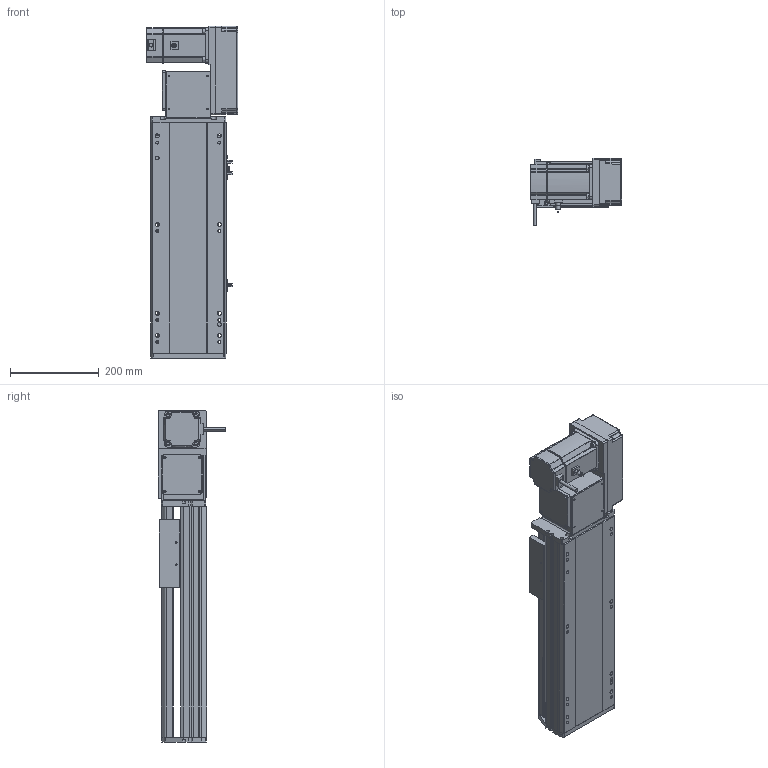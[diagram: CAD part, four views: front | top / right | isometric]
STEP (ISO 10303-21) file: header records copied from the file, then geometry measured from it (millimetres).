
FILE_DESCRIPTION (( 'STEP AP214' ), '1' );
FILE_NAME ('RTB17S-XX-250-R-M75-C4.STEP', '2025-12-12T01:29:22', ( '' ), ( '' ), 'SwSTEP 2.0', 'SolidWorks 2018', '' );
FILE_SCHEMA (( 'AUTOMOTIVE_DESIGN' ));
Length unit declared in the file: millimetre
Products named in the file (15): RTB22S-GY-017P^RTB17S-R-々湍釱蚾饜-750W_RTB17S-XX-XX-R-M75-C4; RTB17S-L-001-耜醱啣^RTB17S-XX-XX-R-M75-C4; RTB22S-GY-005P^RTB17S-R-々湍釱蚾饜-750W_RTB17S-XX-XX-R-M75-C4; RTB22S-GY-008-M75--萇儂啣^RTB17S-R-々湍釱蚾饜-750W_RTB17S-XX-XX-R-M75-C4; RTB17S-L-014-T20-P75--々湍釱^RTB17S-R-々湍釱蚾饜-750W_RTB17S-XX-XX-R-M75-C4; EE672^RTB17S-XX-XX-R-M75-C4; RTH13-BL-012覜茼え俋离^RTB17S-賑釱_RTB17S-XX-XX-R-M75-C4; RTB17S-L-007奻裔^RTB17S-XX-XX-R-M75-C4; RTB17S-賑釱^RTB17S-XX-XX-R-M75-C4; RTB17S-L-004-賑釱^RTB17S-賑釱_RTB17S-XX-XX-R-M75-C4; 750W萇儂^RTB17S-XX-XX-R-M75-C4; RTB17-R-011菁釱^RTB17S-XX-XX-R-M75-C4; RTB17S-XX-250-R-M75-C4; RTB22S-GY-018P^RTB17S-R-々湍釱蚾饜-750W_RTB17S-XX-XX-R-M75-C4; RTB17S-R-々湍釱蚾饜-750W^RTB17S-XX-XX-R-M75-C4
Assembly tree (17 placements, depth 3):
  RTB17S-XX-250-R-M75-C4
    RTB17-R-011菁釱^RTB17S-XX-XX-R-M75-C4
    EE672^RTB17S-XX-XX-R-M75-C4  x3
    RTB17S-L-001-耜醱啣^RTB17S-XX-XX-R-M75-C4
    RTB17S-賑釱^RTB17S-XX-XX-R-M75-C4
      RTB17S-L-004-賑釱^RTB17S-賑釱_RTB17S-XX-XX-R-M75-C4
      RTH13-BL-012覜茼え俋离^RTB17S-賑釱_RTB17S-XX-XX-R-M75-C4
    RTB17S-L-007奻裔^RTB17S-XX-XX-R-M75-C4
    750W萇儂^RTB17S-XX-XX-R-M75-C4
    RTB17S-R-々湍釱蚾饜-750W^RTB17S-XX-XX-R-M75-C4
      RTB17S-L-014-T20-P75--々湍釱^RTB17S-R-々湍釱蚾饜-750W_RTB17S-XX-XX-R-M75-C4
      RTB22S-GY-005P^RTB17S-R-々湍釱蚾饜-750W_RTB17S-XX-XX-R-M75-C4
      RTB22S-GY-017P^RTB17S-R-々湍釱蚾饜-750W_RTB17S-XX-XX-R-M75-C4  x2
      RTB22S-GY-008-M75--萇儂啣^RTB17S-R-々湍釱蚾饜-750W_RTB17S-XX-XX-R-M75-C4
      RTB22S-GY-018P^RTB17S-R-々湍釱蚾饜-750W_RTB17S-XX-XX-R-M75-C4
Bounding box: 207.4 x 152.7 x 749 mm (x, y, z)
Volume: 7507527.7 mm3; surface area: 1151470.8 mm2
Topology: 17 solids, 17 shells, 2041 faces, 5620 edges, 3626 vertices
Faces by surface type: plane 964, cylinder 661, bspline 294, cone 110, sphere 8, torus 4
Entity records: 55798 total; most frequent: CARTESIAN_POINT 16284, ORIENTED_EDGE 8084, DIRECTION 7592, EDGE_CURVE 4042, AXIS2_PLACEMENT_3D 2646, VERTEX_POINT 2630, VECTOR 2300, LINE 2300
